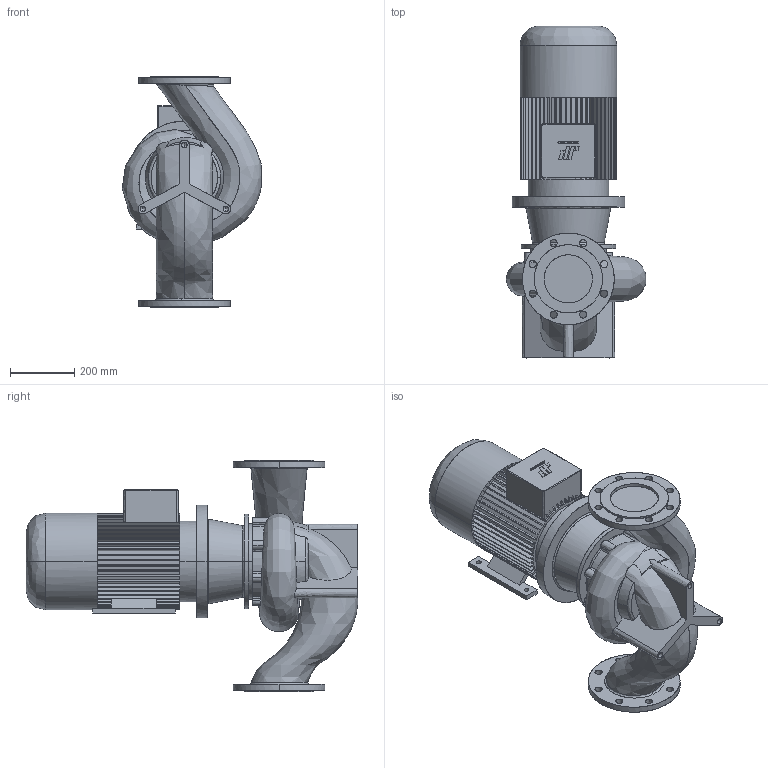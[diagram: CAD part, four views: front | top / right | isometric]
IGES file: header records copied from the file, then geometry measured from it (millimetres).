
Start section: CombiLine
Global section: file name: CLB_150-200_IEC160M_ND10.igs; native system:  By UGS Corp.; preprocessor: XPlus GENERIC/IGES 3.0; author: Stageplaats; organization: Johnson Pump Water B.V.; date: 20070717.143309; units: millimetre
Bounding box: 433.37 x 1030.5 x 720 mm (x, y, z)
Surface area: 2331392.1 mm2 (no closed solid volume)
Topology: 0 solids, 0 shells, 598 faces, 3629 edges, 3623 vertices
Faces by surface type: bspline 598
